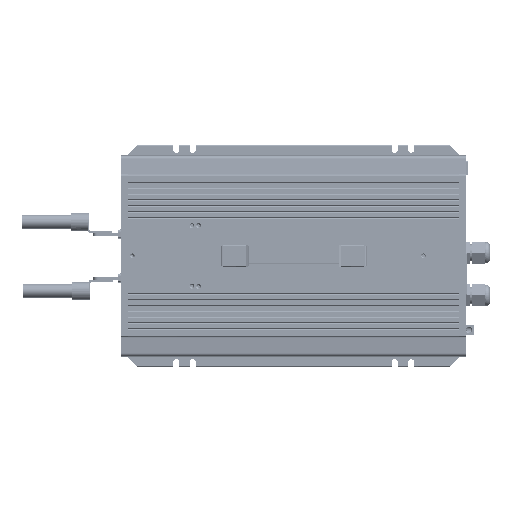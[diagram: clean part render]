
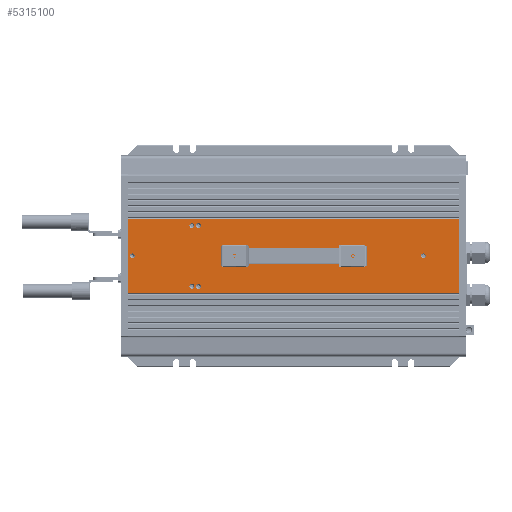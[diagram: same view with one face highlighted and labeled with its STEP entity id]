
A CAD part, top view. The second image highlights one B-rep face of the part: STEP entity #5315100.
In plain terms, the highlighted planar face has unit normal (0, 0, 1) as drawn and (0, 1, 0) by its records, which use the part's own axes.
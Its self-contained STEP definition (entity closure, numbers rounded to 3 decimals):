
#5292380=CARTESIAN_POINT('',(2078.449,98.104,-63.1));
#5292390=VERTEX_POINT('',#5292380);
#5292420=CARTESIAN_POINT('',(1988.299,98.104,-63.1));
#5292430=DIRECTION('',(1.,0.,0.));
#5292440=VECTOR('',#5292430,90.15);
#5292450=LINE('',#5292420,#5292440);
#5292460=CARTESIAN_POINT('',(1988.299,98.104,-63.1));
#5292470=VERTEX_POINT('',#5292460);
#5292480=EDGE_CURVE('',#5292470,#5292390,#5292450,.T.);
#5301360=CARTESIAN_POINT('',(1988.299,98.104,340.9));
#5301370=VERTEX_POINT('',#5301360);
#5301400=CARTESIAN_POINT('',(2078.449,98.104,340.9));
#5301410=DIRECTION('',(-1.,0.,0.));
#5301420=VECTOR('',#5301410,90.15);
#5301430=LINE('',#5301400,#5301420);
#5301440=CARTESIAN_POINT('',(2078.449,98.104,340.9));
#5301450=VERTEX_POINT('',#5301440);
#5301460=EDGE_CURVE('',#5301450,#5301370,#5301430,.T.);
#5313200=CARTESIAN_POINT('',(2030.374,98.104,296.9));
#5313210=VERTEX_POINT('',#5313200);
#5313330=CARTESIAN_POINT('',(2036.374,98.104,296.9));
#5313340=VERTEX_POINT('',#5313330);
#5313370=CARTESIAN_POINT('',(2033.374,98.104,296.9));
#5313380=DIRECTION('',(0.,-1.,0.));
#5313390=DIRECTION('',(1.,0.,0.));
#5313400=AXIS2_PLACEMENT_3D('',#5313370,#5313380,#5313390);
#5313410=CIRCLE('',#5313400,3.);
#5313420=EDGE_CURVE('',#5313340,#5313210,#5313410,.T.);
#5313710=CARTESIAN_POINT('',(2028.721,98.104,122.9));
#5313720=DIRECTION('',(0.,-1.,0.));
#5313730=DIRECTION('',(1.,0.,0.));
#5313740=AXIS2_PLACEMENT_3D('',#5313710,#5313720,#5313730);
#5313750=PLANE('',#5313740);
#5313760=CARTESIAN_POINT('',(2033.376,98.104,210.9));
#5313770=DIRECTION('',(0.,1.,0.));
#5313780=DIRECTION('',(0.,0.,1.));
#5313790=AXIS2_PLACEMENT_3D('',#5313760,#5313770,#5313780);
#5313800=CIRCLE('',#5313790,1.6);
#5313810=CARTESIAN_POINT('',(2033.376,98.104,212.5));
#5313820=VERTEX_POINT('',#5313810);
#5313830=CARTESIAN_POINT('',(2033.376,98.104,209.3));
#5313840=VERTEX_POINT('',#5313830);
#5313850=EDGE_CURVE('',#5313820,#5313840,#5313800,.T.);
#5313860=ORIENTED_EDGE('',*,*,#5313850,.F.);
#5313870=EDGE_CURVE('',#5313840,#5313820,#5313800,.T.);
#5313880=ORIENTED_EDGE('',*,*,#5313870,.F.);
#5313890=EDGE_LOOP('',(#5313880,#5313860));
#5313900=FACE_BOUND('',#5313890,.T.);
#5313910=CARTESIAN_POINT('',(1996.284,98.104,22.949
));
#5313920=DIRECTION('',(0.,1.,0.));
#5313930=DIRECTION('',(1.,0.,0.));
#5313940=AXIS2_PLACEMENT_3D('',#5313910,#5313920,#5313930);
#5313950=CIRCLE('',#5313940,3.);
#5313960=CARTESIAN_POINT('',(1996.284,98.104,19.949
));
#5313970=VERTEX_POINT('',#5313960);
#5313980=CARTESIAN_POINT('',(1993.284,98.104,22.949
));
#5313990=VERTEX_POINT('',#5313980);
#5314000=EDGE_CURVE('',#5313970,#5313990,#5313950,.T.);
#5314010=ORIENTED_EDGE('',*,*,#5314000,.F.);
#5314020=CARTESIAN_POINT('',(1999.284,98.104,22.949
));
#5314030=VERTEX_POINT('',#5314020);
#5314040=EDGE_CURVE('',#5313990,#5314030,#5313950,.T.);
#5314050=ORIENTED_EDGE('',*,*,#5314040,.F.);
#5314060=EDGE_CURVE('',#5314030,#5313970,#5313950,.T.);
#5314070=ORIENTED_EDGE('',*,*,#5314060,.F.);
#5314080=EDGE_LOOP('',(#5314070,#5314050,#5314010));
#5314090=FACE_BOUND('',#5314080,.T.);
#5314100=EDGE_CURVE('',#5313210,#5313340,#5313410,.T.);
#5314110=ORIENTED_EDGE('',*,*,#5314100,.T.);
#5314120=ORIENTED_EDGE('',*,*,#5313420,.T.);
#5314130=EDGE_LOOP('',(#5314120,#5314110));
#5314140=FACE_BOUND('',#5314130,.T.);
#5314150=CARTESIAN_POINT('',(2033.376,98.104,-57.6));
#5314160=DIRECTION('',(0.,-1.,0.));
#5314170=DIRECTION('',(-1.,0.,0.));
#5314180=AXIS2_PLACEMENT_3D('',#5314150,#5314160,#5314170);
#5314190=CIRCLE('',#5314180,3.);
#5314200=CARTESIAN_POINT('',(2030.376,98.104,
-57.6));
#5314210=VERTEX_POINT('',#5314200);
#5314220=CARTESIAN_POINT('',(2036.376,98.104,
-57.6));
#5314230=VERTEX_POINT('',#5314220);
#5314240=EDGE_CURVE('',#5314210,#5314230,#5314190,.T.);
#5314250=ORIENTED_EDGE('',*,*,#5314240,.T.);
#5314260=EDGE_CURVE('',#5314230,#5314210,#5314190,.T.);
#5314270=ORIENTED_EDGE('',*,*,#5314260,.T.);
#5314280=EDGE_LOOP('',(#5314270,#5314250));
#5314290=FACE_BOUND('',#5314280,.T.);
#5314300=CARTESIAN_POINT('',(2070.318,98.104,14.949));
#5314310=DIRECTION('',(0.,1.,0.));
#5314320=DIRECTION('',(1.,0.,0.));
#5314330=AXIS2_PLACEMENT_3D('',#5314300,#5314310,#5314320);
#5314340=CIRCLE('',#5314330,3.);
#5314350=CARTESIAN_POINT('',(2073.318,98.104,14.949));
#5314360=VERTEX_POINT('',#5314350);
#5314370=CARTESIAN_POINT('',(2067.318,98.104,14.949));
#5314380=VERTEX_POINT('',#5314370);
#5314390=EDGE_CURVE('',#5314360,#5314380,#5314340,.T.);
#5314400=ORIENTED_EDGE('',*,*,#5314390,.F.);
#5314410=EDGE_CURVE('',#5314380,#5314360,#5314340,.T.);
#5314420=ORIENTED_EDGE('',*,*,#5314410,.F.);
#5314430=EDGE_LOOP('',(#5314420,#5314400));
#5314440=FACE_BOUND('',#5314430,.T.);
#5314450=CARTESIAN_POINT('',(1996.284,98.104,14.949
));
#5314460=DIRECTION('',(0.,1.,0.));
#5314470=DIRECTION('',(1.,0.,0.));
#5314480=AXIS2_PLACEMENT_3D('',#5314450,#5314460,#5314470);
#5314490=CIRCLE('',#5314480,3.);
#5314500=CARTESIAN_POINT('',(1995.513,98.104,12.05
));
#5314510=VERTEX_POINT('',#5314500);
#5314520=CARTESIAN_POINT('',(1993.284,98.104,14.949
));
#5314530=VERTEX_POINT('',#5314520);
#5314540=EDGE_CURVE('',#5314510,#5314530,#5314490,.T.);
#5314550=ORIENTED_EDGE('',*,*,#5314540,.F.);
#5314560=CARTESIAN_POINT('',(1999.284,98.104,14.949
));
#5314570=VERTEX_POINT('',#5314560);
#5314580=EDGE_CURVE('',#5314530,#5314570,#5314490,.T.);
#5314590=ORIENTED_EDGE('',*,*,#5314580,.F.);
#5314600=EDGE_CURVE('',#5314570,#5314510,#5314490,.T.);
#5314610=ORIENTED_EDGE('',*,*,#5314600,.F.);
#5314620=EDGE_LOOP('',(#5314610,#5314590,#5314550));
#5314630=FACE_BOUND('',#5314620,.T.);
#5314640=CARTESIAN_POINT('',(2070.318,98.104,22.949));
#5314650=DIRECTION('',(0.,1.,0.));
#5314660=DIRECTION('',(1.,0.,0.));
#5314670=AXIS2_PLACEMENT_3D('',#5314640,#5314650,#5314660);
#5314680=CIRCLE('',#5314670,3.);
#5314690=CARTESIAN_POINT('',(2073.318,98.104,22.949));
#5314700=VERTEX_POINT('',#5314690);
#5314710=CARTESIAN_POINT('',(2067.318,98.104,22.949));
#5314720=VERTEX_POINT('',#5314710);
#5314730=EDGE_CURVE('',#5314700,#5314720,#5314680,.T.);
#5314740=ORIENTED_EDGE('',*,*,#5314730,.F.);
#5314750=EDGE_CURVE('',#5314720,#5314700,#5314680,.T.);
#5314760=ORIENTED_EDGE('',*,*,#5314750,.F.);
#5314770=EDGE_LOOP('',(#5314760,#5314740));
#5314780=FACE_BOUND('',#5314770,.T.);
#5314790=CARTESIAN_POINT('',(2033.376,98.104,66.9));
#5314800=DIRECTION('',(0.,1.,0.));
#5314810=DIRECTION('',(0.,0.,1.));
#5314820=AXIS2_PLACEMENT_3D('',#5314790,#5314800,#5314810);
#5314830=CIRCLE('',#5314820,1.6);
#5314840=CARTESIAN_POINT('',(2033.376,98.104,68.5));
#5314850=VERTEX_POINT('',#5314840);
#5314860=CARTESIAN_POINT('',(2033.376,98.104,65.3));
#5314870=VERTEX_POINT('',#5314860);
#5314880=EDGE_CURVE('',#5314850,#5314870,#5314830,.T.);
#5314890=ORIENTED_EDGE('',*,*,#5314880,.F.);
#5314900=EDGE_CURVE('',#5314870,#5314850,#5314830,.T.);
#5314910=ORIENTED_EDGE('',*,*,#5314900,.F.);
#5314920=EDGE_LOOP('',(#5314910,#5314890));
#5314930=FACE_BOUND('',#5314920,.T.);
#5314940=ORIENTED_EDGE('',*,*,#5292480,.F.);
#5314950=CARTESIAN_POINT('',(2078.449,98.104,-63.1));
#5314960=DIRECTION('',(0.,0.,1.));
#5314970=VECTOR('',#5314960,404.);
#5314980=LINE('',#5314950,#5314970);
#5314990=EDGE_CURVE('',#5292390,#5301450,#5314980,.T.);
#5315000=ORIENTED_EDGE('',*,*,#5314990,.F.);
#5315010=ORIENTED_EDGE('',*,*,#5301460,.F.);
#5315020=CARTESIAN_POINT('',(1988.299,98.104,340.9));
#5315030=DIRECTION('',(0.,0.,-1.));
#5315040=VECTOR('',#5315030,404.);
#5315050=LINE('',#5315020,#5315040);
#5315060=EDGE_CURVE('',#5301370,#5292470,#5315050,.T.);
#5315070=ORIENTED_EDGE('',*,*,#5315060,.F.);
#5315080=EDGE_LOOP('',(#5315070,#5315010,#5315000,#5314940));
#5315090=FACE_OUTER_BOUND('',#5315080,.T.);
#5315100=ADVANCED_FACE('',(#5313900,#5314090,#5314140,#5314290,#5314440,
#5314630,#5314780,#5314930,#5315090),#5313750,.F.);
